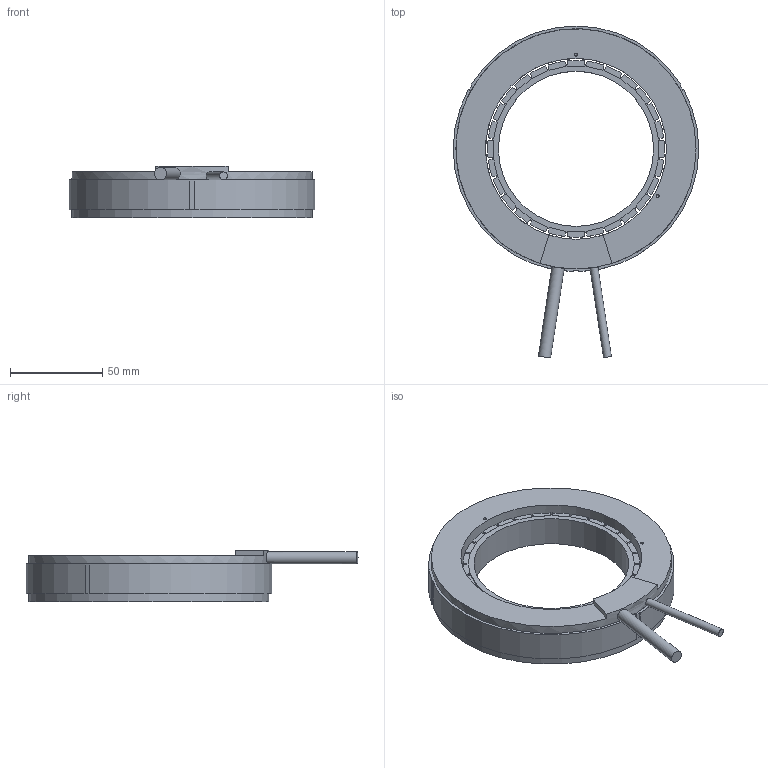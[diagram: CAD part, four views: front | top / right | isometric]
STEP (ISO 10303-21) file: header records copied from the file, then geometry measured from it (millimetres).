
FILE_DESCRIPTION(/* description */ ('Unknown'),/* implementation_level */ '2;1');
FILE_NAME(/* name */ 'Torque_QTR_133_25_N_Kit_CAD_180906',/* time_stamp */ '2018-09-06T16:55:39+02:00',/* author */ ('Unknown'),/* organization */ ('Unknown'),/* preprocessor_version */ 'ST-DEVELOPER v16.7',/* originating_system */ 'DEX',/* authorisation */ $);
FILE_SCHEMA (('AUTOMOTIVE_DESIGN {1 0 10303 214 3 1 1}'));
Length unit declared in the file: millimetre
Products named in the file (1): Torque_QTR_133_25_N_Kit_CAD_180906
Bounding box: 132.99 x 179.72 x 28 mm (x, y, z)
Volume: 183317.3 mm3; surface area: 47165.5 mm2
Topology: 2 solids, 2 shells, 369 faces, 976 edges, 614 vertices
Faces by surface type: plane 300, cylinder 67, cone 2
Full cylindrical faces by diameter (mm): 1.65 x2, 4.3 x1, 6.7 x1, 84 x1, 97.9 x1, 130 x2
Entity records: 11109 total; most frequent: CARTESIAN_POINT 1956, ORIENTED_EDGE 1916, DIRECTION 1830, EDGE_CURVE 958, LINE 822, VECTOR 822, VERTEX_POINT 608, AXIS2_PLACEMENT_3D 504
